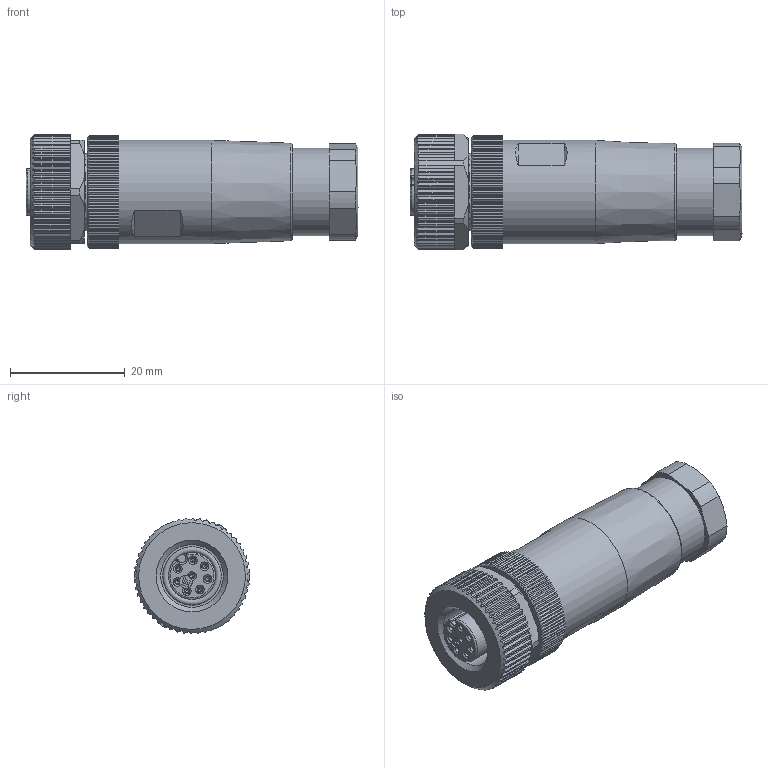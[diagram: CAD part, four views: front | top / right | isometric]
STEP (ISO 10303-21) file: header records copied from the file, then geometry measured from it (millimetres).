
FILE_DESCRIPTION(/* description */ (''),/* implementation_level */ '2;1');
FILE_NAME(/* name */ '99-0486-12-08_bg.stp',/* time_stamp */ '2008-09-12T11:30:23+02:00',/* author */ (''),/* organization */ (''),/* preprocessor_version */ 'ST-DEVELOPER v11',/* originating_system */ 'UGS - NX 5.0',/* authorisation */ '');
FILE_SCHEMA (('CONFIG_CONTROL_DESIGN'));
Length unit declared in the file: millimetre
Products named in the file (1): kborB6BD2npq
Bounding box: 57.9 x 20.2 x 20.2 mm (x, y, z)
Volume: 13915 mm3; surface area: 4943.3 mm2
Topology: 1 solids, 1 shells, 720 faces, 2085 edges, 1377 vertices
Faces by surface type: plane 412, cylinder 242, cone 28, extrusion 16, bspline 16, torus 4, sphere 2
Full cylindrical faces by diameter (mm): 0.85 x8, 0.9 x8, 8.2 x1, 10.917 x1, 13.5 x1, 15.2 x1, 18 x1
Entity records: 25241 total; most frequent: CARTESIAN_POINT 7226, ORIENTED_EDGE 3994, DIRECTION 3398, EDGE_CURVE 1997, VERTEX_POINT 1342, AXIS2_PLACEMENT_3D 1195, VECTOR 1008, LINE 992
